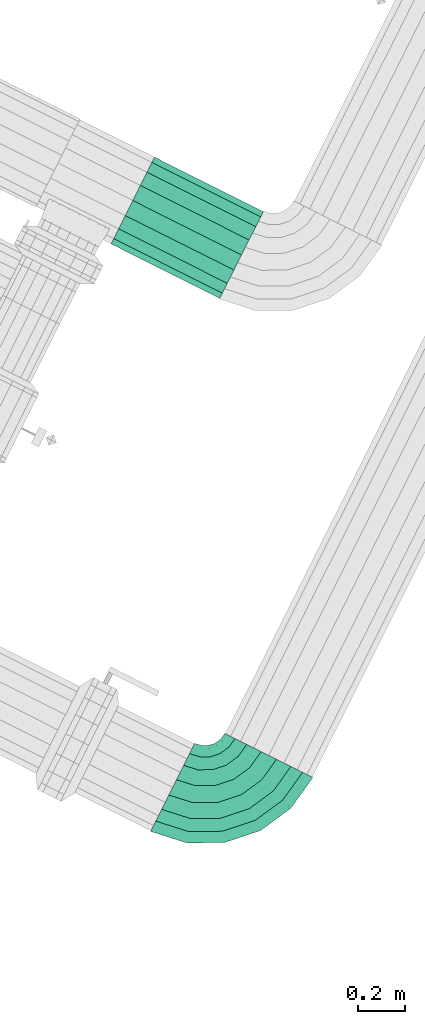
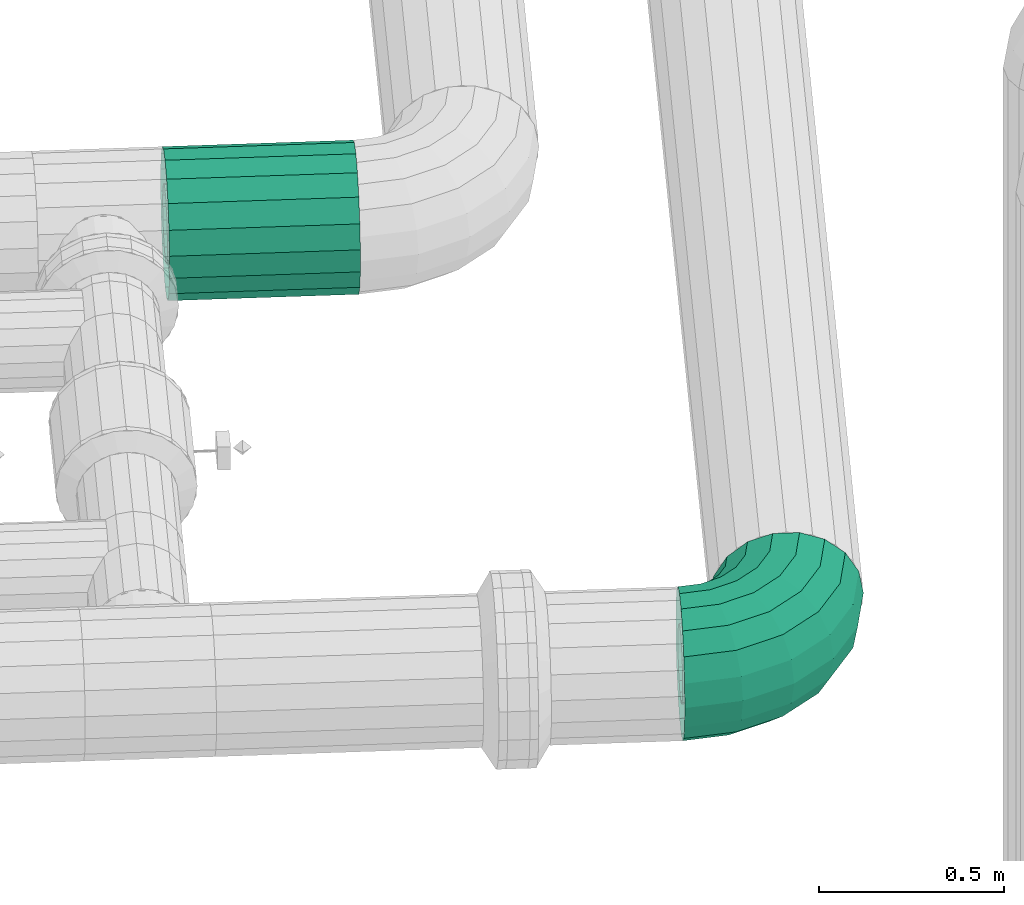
# One storey, part 46 of 152: 2 flow segments.
"""IFC2X3 building model written with IfcOpenShell, lengths in metres."""

import ifcopenshell
import ifcopenshell.guid

model = None  # the IFC model being written
_history = None  # IfcOwnerHistory: only IFC2X3 demands one
_inside = {}  # id of a spatial element -> (the spatial element, [elements in it])
_under = {}  # id of a project, library or spatial element -> (it, [spatial elements below it])
_declared = {}  # id of a project -> (the project, [libraries it declares])
_typed = {}  # id of a type object -> (the type object, [elements of that type])
_made_of = {}  # id of a material, layer set ... -> (it, [elements and type objects made of it])


def new_model(schema):
    """Start an empty IFC model of exactly this schema.

    Asked for "IFC4X3", IfcOpenShell would pick the latest addendum, in which some entities
    have other attributes; the version numbers below select the first issue.
    IFC2X3 requires an IfcOwnerHistory on every rooted entity: one is made here for all.
    """
    global model, _history
    if schema == "IFC4X3":
        model = ifcopenshell.file(schema_version=(4, 3, 0, 0))
    else:
        model = ifcopenshell.file(schema=schema)
    _inside.clear()
    _under.clear()
    _declared.clear()
    _typed.clear()
    _made_of.clear()
    _history = None
    if model.schema == "IFC2X3":
        org = make("IfcOrganization", Name="unknown")
        user = make(
            "IfcPersonAndOrganization",
            ThePerson=make("IfcPerson", FamilyName="unknown"),
            TheOrganization=org,
        )
        app = make(
            "IfcApplication",
            ApplicationDeveloper=org,
            Version="unknown",
            ApplicationFullName="unknown",
            ApplicationIdentifier="unknown",
        )
        _history = make(
            "IfcOwnerHistory",
            OwningUser=user,
            OwningApplication=app,
            ChangeAction="ADDED",
            CreationDate=0,
        )
    return model


def make(cls, **values):
    """One entity of the class cls with the attributes given. An attribute that is None is left unset."""
    return model.create_entity(
        cls, **{name: value for name, value in values.items() if value is not None}
    )


def rooted(cls, **values):
    """An entity with a GlobalId (a new one), such as an element, a storey or a relation."""
    return make(cls, GlobalId=ifcopenshell.guid.new(), OwnerHistory=_history, **values)


def si_unit(unit_type, name, prefix=None):
    """IfcSIUnit, for example si_unit("LENGTHUNIT", "METRE", prefix="MILLI")."""
    return make("IfcSIUnit", UnitType=unit_type, Prefix=prefix, Name=name)


def derived_unit(unit_type, elements):
    """IfcDerivedUnit: a product of units, each with its exponent."""
    return make(
        "IfcDerivedUnit",
        Elements=[
            make("IfcDerivedUnitElement", Unit=unit, Exponent=power)
            for unit, power in elements
        ],
        UnitType=unit_type,
    )


def assignment(units):
    """IfcUnitAssignment: the units of a project."""
    return None if units is None else make("IfcUnitAssignment", Units=units)


def point(xyz):
    """IfcCartesianPoint."""
    return None if xyz is None else make("IfcCartesianPoint", Coordinates=xyz)


def direction(xyz):
    """IfcDirection."""
    return None if xyz is None else make("IfcDirection", DirectionRatios=xyz)


def frame(location, z_axis=None, x_axis=None):
    """IfcAxis2Placement3D, a coordinate frame: its origin and axes. An axis left out is left unset."""
    return make(
        "IfcAxis2Placement3D",
        Location=point(location),
        Axis=direction(z_axis),
        RefDirection=direction(x_axis),
    )


def origin():
    """The frame at (0, 0, 0) with its axes left unset."""
    return frame((0.0, 0.0, 0.0))


def place(relative_to, where):
    """IfcLocalPlacement: puts the frame where relative to a parent placement (None: the world)."""
    return make(
        "IfcLocalPlacement", PlacementRelTo=relative_to, RelativePlacement=where
    )


def context(
    kind, dimensions, precision=None, world=None, true_north=None, identifier=None
):
    """IfcGeometricRepresentationContext, for example the 3D "Model" context."""
    return make(
        "IfcGeometricRepresentationContext",
        ContextIdentifier=identifier,
        ContextType=kind,
        CoordinateSpaceDimension=dimensions,
        Precision=precision,
        WorldCoordinateSystem=world,
        TrueNorth=true_north,
    )


def subcontext(parent, identifier, kind, view, scale=None):
    """IfcGeometricRepresentationSubContext, for example "Body" below "Model"."""
    return make(
        "IfcGeometricRepresentationSubContext",
        ContextIdentifier=identifier,
        ContextType=kind,
        ParentContext=parent,
        TargetScale=scale,
        TargetView=view,
    )


def project(units=None, contexts=None):
    """IfcProject with its units and contexts."""
    return rooted(
        "IfcProject",
        Name="project",
        RepresentationContexts=contexts,
        UnitsInContext=assignment(units),
    )


def spatial(cls, under=None, at=None, **own):
    """A site, building, storey or space (cls), placed at a placement, below another one or the project."""
    s = rooted(cls, ObjectPlacement=at, **own)
    if under is not None:
        _under.setdefault(under.id(), (under, []))[1].append(s)
    return s


def faces_of(points, faces, orient=None, outer=None):
    """IfcFace entities. A face is a list of loops; a loop is a list of indices into points, from 0.

    orient and outer hold one flag for each loop. By default every Orientation is true, the
    first loop of a face is its IfcFaceOuterBound and the others are IfcFaceBound.
    """
    made = []
    for i, loops in enumerate(faces):
        bounds = []
        for j, loop in enumerate(loops):
            is_outer = j == 0 if outer is None else outer[i][j]
            bounds.append(
                make(
                    "IfcFaceOuterBound" if is_outer else "IfcFaceBound",
                    Bound=make("IfcPolyLoop", Polygon=[points[k] for k in loop]),
                    Orientation=True if orient is None else orient[i][j],
                )
            )
        made.append(make("IfcFace", Bounds=bounds))
    return made


def face_set(faces, orient=None, outer=None):
    """The faces of one IfcConnectedFaceSet. surface_model builds it on its shared points."""
    return ("IfcConnectedFaceSet", faces, orient, outer)


def surface_model(cls, points, shells):
    """IfcFaceBasedSurfaceModel or IfcShellBasedSurfaceModel (cls): surfaces that need not close."""
    shared = [point(p) for p in points]
    made = [make(c, CfsFaces=faces_of(shared, fs, o, b)) for c, fs, o, b in shells]
    if cls == "IfcFaceBasedSurfaceModel":
        return make(cls, FbsmFaces=made)
    return make(cls, SbsmBoundary=made)


def shape(context_of_items, identifier, shape_type, items):
    """IfcShapeRepresentation: the items that make up one representation, for example the "Body"."""
    return make(
        "IfcShapeRepresentation",
        ContextOfItems=context_of_items,
        RepresentationIdentifier=identifier,
        RepresentationType=shape_type,
        Items=items,
    )


def source(mapping_origin, context_of_items, identifier, shape_type, items):
    """IfcRepresentationMap: a shape defined once, which mapped items show again and again."""
    return make(
        "IfcRepresentationMap",
        MappingOrigin=mapping_origin,
        MappedRepresentation=shape(context_of_items, identifier, shape_type, items),
    )


def transform(
    local_origin,
    x_axis=None,
    y_axis=None,
    z_axis=None,
    scale=None,
    scale2=None,
    scale3=None,
    uniform=True,
):
    """IfcCartesianTransformationOperator3D, or its non-uniform kind. x_axis, y_axis, z_axis: its Axis1, 2, 3."""
    if uniform:
        return make(
            "IfcCartesianTransformationOperator3D",
            Axis1=direction(x_axis),
            Axis2=direction(y_axis),
            LocalOrigin=point(local_origin),
            Scale=scale,
            Axis3=direction(z_axis),
        )
    return make(
        "IfcCartesianTransformationOperator3DnonUniform",
        Axis1=direction(x_axis),
        Axis2=direction(y_axis),
        LocalOrigin=point(local_origin),
        Scale=scale,
        Axis3=direction(z_axis),
        Scale2=scale2,
        Scale3=scale3,
    )


def mapped(mapping_source, mapping_target):
    """IfcMappedItem: shows the shape of a source again, moved by a transform."""
    return make(
        "IfcMappedItem", MappingSource=mapping_source, MappingTarget=mapping_target
    )


def material(Name=None, Category=None):
    """IfcMaterial."""
    return make("IfcMaterial", Name=Name, Category=Category)


def made_of(thing, what):
    """Note that an element or type object is made of a material, layer set ...; save() writes the relation."""
    if what is not None:
        _made_of.setdefault(what.id(), (what, []))[1].append(thing)
    return thing


def type_object(cls, material=None, **own):
    """A type object (cls), such as IfcWallType, which elements share."""
    return made_of(rooted(cls, **own), material)


def type_shapes(of_type, sources):
    """Give a type object the sources (RepresentationMaps) that its elements show as mapped items."""
    of_type.RepresentationMaps = sources


def element(
    cls,
    number,
    at=None,
    inside=None,
    cuts=None,
    type_object=None,
    material=None,
    context=None,
    identifier="Body",
    shape_type=None,
    held_by="IfcProductDefinitionShape",
    body=None,
    shapes=None,
    **own,
):
    """One element of the class cls, such as IfcWall. Its Tag is "e" and its number.

    at: its placement. inside: the storey or other place that contains it. cuts: it is an
    opening in that element (IfcRelVoidsElement). A single representation is given by context,
    identifier, shape_type and body (its items); several are given by shapes. held_by: the class
    of the entity that holds the representations. save() writes the other relations.
    """
    e = rooted(cls, Tag="e%d" % number, ObjectPlacement=at, **own)
    if body is not None:
        shapes = [shape(context, identifier, shape_type, body)]
    if shapes is not None:
        e.Representation = make(held_by, Representations=shapes)
    if inside is not None:
        _inside.setdefault(inside.id(), (inside, []))[1].append(e)
    if cuts is not None:
        rooted(
            "IfcRelVoidsElement", RelatingBuildingElement=cuts, RelatedOpeningElement=e
        )
    if type_object is not None:
        _typed.setdefault(type_object.id(), (type_object, []))[1].append(e)
    return made_of(e, material)


def aggregate(whole, parts):
    """IfcRelAggregates: a whole, such as a stair, and the parts it consists of."""
    return rooted("IfcRelAggregates", RelatingObject=whole, RelatedObjects=parts)


def save(model, path):
    """Write the relations noted so far, then the file.

    IfcRelAggregates (storeys below a building ...), IfcRelContainedInSpatialStructure (elements
    in a storey), IfcRelDefinesByType, IfcRelAssociatesMaterial and IfcRelDeclares: one each for
    every whole, place, type object, material and project.
    """
    for whole, parts in _under.values():
        aggregate(whole, parts)
    for where, things in _inside.values():
        rooted(
            "IfcRelContainedInSpatialStructure",
            RelatedElements=things,
            RelatingStructure=where,
        )
    for kind, things in _typed.values():
        rooted("IfcRelDefinesByType", RelatedObjects=things, RelatingType=kind)
    for what, things in _made_of.values():
        rooted("IfcRelAssociatesMaterial", RelatedObjects=things, RelatingMaterial=what)
    for by, libraries in _declared.values():
        rooted("IfcRelDeclares", RelatingContext=by, RelatedDefinitions=libraries)
    model.write(path)


model = new_model("IFC2X3")

# Units and contexts
model_context = context("Model", 3, precision=5.2338327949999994e-05, world=origin(), true_north=direction((0.0, 1.0)))
body_context = subcontext(model_context, "Body", "Model", "MODEL_VIEW")
ifc_project = project(units=[si_unit("LENGTHUNIT", "METRE"), si_unit("AREAUNIT", "SQUARE_METRE"), si_unit("VOLUMEUNIT", "CUBIC_METRE"), si_unit("MASSUNIT", "GRAM", prefix="KILO"), si_unit("PLANEANGLEUNIT", "RADIAN"), derived_unit("THERMALTRANSMITTANCEUNIT", [(si_unit("MASSUNIT", "GRAM", prefix="KILO"), 1), (si_unit("THERMODYNAMICTEMPERATUREUNIT", "KELVIN"), -1), (si_unit("TIMEUNIT", "SECOND"), -3)])], contexts=[model_context])

# Site, building, storey
site_placement = place(None, frame((0.0, 0.0, 0.0), z_axis=(0.0, 0.0, 1.0), x_axis=(0.8939966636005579, -0.4480736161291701, 0.0)))
site = spatial("IfcSite", under=ifc_project, at=site_placement, Name="Default", CompositionType="ELEMENT")
building_placement = place(site_placement, origin())
building = spatial("IfcBuilding", under=site, at=building_placement, CompositionType="ELEMENT")
storey_placement = place(building_placement, frame((0.0, 0.0, 2.7499999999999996)))
storey = spatial("IfcBuildingStorey", under=building, at=storey_placement, Name="1. Obergeschoss", CompositionType="ELEMENT", Elevation=2.7499999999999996)

# Flow segments
ifc_material_1 = material(Name="IfcSurfaceStyle #9317")
distribution_element_type_1 = type_object("IfcDistributionElementType", Name="Rohrbogen 226902:Rohrbogen 226902", material=ifc_material_1)
shared_shape_1 = source(origin(), body_context, "Body", "SurfaceModel", [
    surface_model("IfcFaceBasedSurfaceModel", [(16.50504158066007, 5.747237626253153, 5.63564078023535), (16.50504158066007, 5.753844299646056, 5.598172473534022), (16.631103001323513, 5.77381046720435, 5.598172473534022), (16.633144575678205, 5.767527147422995, 5.63564078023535), (16.744824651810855, 5.83175454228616, 5.598172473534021), (16.748707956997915, 5.8264096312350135, 5.635640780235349), (16.83507466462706, 5.922004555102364, 5.598172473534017), (16.840419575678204, 5.918121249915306, 5.635640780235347), (16.893018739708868, 6.035726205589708, 5.598172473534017), (16.899302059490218, 6.033684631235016, 5.6356407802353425), (16.912984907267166, 6.161787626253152, 5.598172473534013), (16.919591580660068, 6.1617876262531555, 5.635640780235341), (16.505041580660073, 5.772867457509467, 5.565223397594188), (16.62522452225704, 5.791902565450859, 5.565223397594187), (16.733643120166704, 5.847144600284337, 5.565223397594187), (16.819684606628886, 5.933186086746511, 5.565223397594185), (16.874926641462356, 6.041604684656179, 5.565223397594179), (16.893961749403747, 6.161787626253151, 5.565223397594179), (16.50504158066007, 5.802012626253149, 5.540767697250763), (16.616218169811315, 5.819621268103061, 5.540767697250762), (16.716512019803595, 5.8707235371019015, 5.54076769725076), (16.79610566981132, 5.950317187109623, 5.540767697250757), (16.847207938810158, 6.050611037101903, 5.540767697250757), (16.864816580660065, 6.16178762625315, 5.540767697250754), (16.50504158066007, 5.837764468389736, 5.527755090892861), (16.6051702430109, 5.853623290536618, 5.527755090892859), (16.69549761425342, 5.899647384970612, 5.52775509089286), (16.7671818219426, 5.9713315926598, 5.527755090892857), (16.813205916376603, 6.061658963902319, 5.527755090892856), (16.829064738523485, 6.16178762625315, 5.527755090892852), (16.505041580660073, 5.8758107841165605, 5.527755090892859), (16.59341328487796, 5.889807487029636, 5.527755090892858), (16.673134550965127, 5.930427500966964, 5.527755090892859), (16.736401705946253, 5.9936946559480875, 5.527755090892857), (16.77702171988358, 6.07341592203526, 5.527755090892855), (16.791018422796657, 6.161787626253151, 5.527755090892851), (16.50504158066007, 5.911562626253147, 5.540767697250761), (16.582365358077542, 5.923809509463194, 5.540767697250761), (16.652120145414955, 5.959351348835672, 5.540767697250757), (16.707477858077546, 6.01470906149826, 5.5407676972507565), (16.743019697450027, 6.084463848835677, 5.540767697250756), (16.75526658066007, 6.161787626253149, 5.540767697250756), (16.50504158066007, 5.940707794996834, 5.565223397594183), (16.57335900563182, 5.951528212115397, 5.56522339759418), (16.634989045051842, 5.982930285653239, 5.565223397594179), (16.683898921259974, 6.031840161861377, 5.565223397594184), (16.715300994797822, 6.0934702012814, 5.565223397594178), (16.726121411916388, 6.161787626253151, 5.565223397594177), (16.50504158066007, 5.959730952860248, 5.598172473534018), (16.567480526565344, 5.969620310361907, 5.5981724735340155), (16.623807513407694, 5.99832034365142, 5.598172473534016), (16.6685088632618, 6.0430216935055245, 5.598172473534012), (16.697208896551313, 6.099348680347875, 5.598172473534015), (16.707098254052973, 6.161787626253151, 5.598172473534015), (16.50504158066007, 5.96633762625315, 5.635640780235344), (16.56543895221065, 5.975903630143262, 5.6356407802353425), (16.61992420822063, 6.0036652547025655, 5.635640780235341), (16.663163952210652, 6.046904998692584, 5.635640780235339), (16.690925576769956, 6.101390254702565, 5.635640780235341), (16.700491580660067, 6.161787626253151, 5.635640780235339), (16.50504158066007, 5.959730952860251, 5.673109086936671), (16.567480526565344, 5.96962031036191, 5.673109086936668), (16.623807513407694, 5.998320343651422, 5.673109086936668), (16.6685088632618, 6.043021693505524, 5.673109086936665), (16.69720889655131, 6.099348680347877, 5.673109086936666), (16.707098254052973, 6.161787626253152, 5.673109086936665), (16.50504158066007, 5.940707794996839, 5.706058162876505), (16.57335900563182, 5.9515282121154, 5.706058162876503), (16.634989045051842, 5.982930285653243, 5.7060581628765), (16.683898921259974, 6.03184016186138, 5.706058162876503), (16.71530099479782, 6.093470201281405, 5.706058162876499), (16.726121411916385, 6.161787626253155, 5.706058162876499), (16.50504158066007, 5.911562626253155, 5.73051386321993), (16.582365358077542, 5.923809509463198, 5.73051386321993), (16.65212014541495, 5.959351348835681, 5.730513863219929), (16.707477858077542, 6.014709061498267, 5.7305138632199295), (16.743019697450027, 6.084463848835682, 5.730513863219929), (16.75526658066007, 6.161787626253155, 5.730513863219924), (16.50504158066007, 5.875810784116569, 5.7435264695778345), (16.593413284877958, 5.889807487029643, 5.743526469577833), (16.673134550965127, 5.930427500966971, 5.743526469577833), (16.73640170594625, 5.993694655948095, 5.74352646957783), (16.77702171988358, 6.0734159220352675, 5.743526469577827), (16.79101842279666, 6.161787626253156, 5.7435264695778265), (16.505041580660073, 5.837764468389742, 5.743526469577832), (16.605170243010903, 5.853623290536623, 5.743526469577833), (16.69549761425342, 5.899647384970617, 5.743526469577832), (16.767181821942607, 5.971331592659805, 5.743526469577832), (16.813205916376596, 6.061658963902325, 5.74352646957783), (16.82906473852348, 6.161787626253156, 5.7435264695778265), (16.50504158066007, 5.802012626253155, 5.730513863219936), (16.616218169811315, 5.8196212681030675, 5.730513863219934), (16.716512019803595, 5.8707235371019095, 5.730513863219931), (16.79610566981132, 5.950317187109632, 5.730513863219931), (16.847207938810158, 6.050611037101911, 5.730513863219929), (16.864816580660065, 6.161787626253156, 5.730513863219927), (16.50504158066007, 5.772867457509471, 5.706058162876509), (16.62522452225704, 5.791902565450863, 5.706058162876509), (16.73364312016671, 5.847144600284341, 5.7060581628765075), (16.819684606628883, 5.933186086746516, 5.706058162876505), (16.874926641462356, 6.041604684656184, 5.706058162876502), (16.89396174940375, 6.1617876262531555, 5.706058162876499), (16.50504158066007, 5.753844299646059, 5.673109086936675), (16.631103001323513, 5.7738104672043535, 5.673109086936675), (16.744824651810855, 5.831754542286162, 5.673109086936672), (16.835074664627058, 5.922004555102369, 5.6731090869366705), (16.893018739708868, 6.035726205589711, 5.6731090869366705), (16.912984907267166, 6.1617876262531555, 5.673109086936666), (16.50504158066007, 5.64723762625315, 5.635640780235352), (16.505041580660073, 5.659875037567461, 5.563970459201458), (16.660141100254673, 5.684440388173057, 5.563970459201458), (16.664046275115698, 5.67242149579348, 5.6356407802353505), (16.800058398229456, 5.755731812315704, 5.563970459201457), (16.807486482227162, 5.745507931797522, 5.63564078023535), (16.911097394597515, 5.866770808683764, 5.563970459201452), (16.9213212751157, 5.859342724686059, 5.635640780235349), (16.98238881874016, 6.006688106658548, 5.56397045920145), (16.994407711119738, 6.002782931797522, 5.635640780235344), (17.006954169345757, 6.16178762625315, 5.563970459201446), (17.019591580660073, 6.161787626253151, 5.63564078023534), (16.50504158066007, 5.696263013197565, 5.500944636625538), (16.648896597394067, 5.719047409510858, 5.500944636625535), (16.7786700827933, 5.785170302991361, 5.500944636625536), (16.88165890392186, 5.888159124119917, 5.500944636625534), (16.94778179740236, 6.017932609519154, 5.50094463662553), (16.97056619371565, 6.161787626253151, 5.500944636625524), (16.505041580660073, 5.752012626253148, 5.45416515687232), (16.631669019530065, 5.772068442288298, 5.454165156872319), (16.745901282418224, 5.830272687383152, 5.454165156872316), (16.836556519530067, 5.920927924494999, 5.454165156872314), (16.894760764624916, 6.0351601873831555, 5.454165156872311), (16.91481658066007, 6.161787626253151, 5.454165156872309), (16.505041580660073, 5.82039965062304, 5.429274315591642), (16.610536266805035, 5.837108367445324, 5.4292743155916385), (16.70570439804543, 5.88559895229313, 5.429274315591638), (16.781230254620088, 5.961124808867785, 5.429274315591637), (16.829720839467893, 6.056292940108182, 5.429274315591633), (16.846429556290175, 6.161787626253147, 5.4292743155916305), (16.505041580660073, 5.89317560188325, 5.429274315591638), (16.58804726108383, 5.906322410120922, 5.429274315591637), (16.66292776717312, 5.944475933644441, 5.429274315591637), (16.722353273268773, 6.003901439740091, 5.429274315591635), (16.760506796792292, 6.0787819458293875, 5.429274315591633), (16.773653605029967, 6.161787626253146, 5.429274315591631), (16.505041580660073, 5.961562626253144, 5.454165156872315), (16.5669145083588, 5.971362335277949, 5.454165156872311), (16.62273088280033, 5.99980219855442, 5.454165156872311), (16.667027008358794, 6.044098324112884, 5.45416515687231), (16.695466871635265, 6.099914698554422, 5.45416515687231), (16.705266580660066, 6.1617876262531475, 5.454165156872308), (16.50504158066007, 6.017312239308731, 5.500944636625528), (16.54968693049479, 6.024383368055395, 5.500944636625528), (16.589962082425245, 6.044904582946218, 5.500944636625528), (16.621924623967, 6.076867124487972, 5.500944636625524), (16.64244583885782, 6.117142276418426, 5.500944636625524), (16.649516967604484, 6.161787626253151, 5.500944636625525), (16.505041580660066, 6.053700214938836, 5.563970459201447), (16.538442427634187, 6.0589903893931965, 5.563970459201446), (16.568573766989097, 6.0743430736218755, 5.563970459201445), (16.59248613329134, 6.098255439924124, 5.563970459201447), (16.60783881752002, 6.12838677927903, 5.563970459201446), (16.61312899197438, 6.16178762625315, 5.563970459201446), (16.50504158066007, 6.066337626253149, 5.635640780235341), (16.53453725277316, 6.071009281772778, 5.635640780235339), (16.561145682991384, 6.084566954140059, 5.635640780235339), (16.58226225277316, 6.105683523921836, 5.635640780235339), (16.59581992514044, 6.132291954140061, 5.635640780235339), (16.600491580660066, 6.161787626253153, 5.635640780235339), (16.50504158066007, 6.053700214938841, 5.7073111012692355), (16.538442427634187, 6.058990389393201, 5.7073111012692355), (16.568573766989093, 6.074343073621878, 5.7073111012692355), (16.59248613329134, 6.098255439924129, 5.707311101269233), (16.60783881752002, 6.128386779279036, 5.707311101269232), (16.61312899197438, 6.1617876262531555, 5.707311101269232), (16.50504158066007, 6.017312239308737, 5.770336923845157), (16.54968693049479, 6.024383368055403, 5.770336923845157), (16.589962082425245, 6.044904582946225, 5.770336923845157), (16.621924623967, 6.076867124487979, 5.770336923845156), (16.64244583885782, 6.117142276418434, 5.770336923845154), (16.649516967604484, 6.161787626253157, 5.7703369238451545), (16.505041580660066, 5.961562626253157, 5.817116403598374), (16.566914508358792, 5.971362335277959, 5.817116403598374), (16.62273088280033, 5.9998021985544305, 5.817116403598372), (16.667027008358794, 6.044098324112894, 5.817116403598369), (16.695466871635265, 6.099914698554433, 5.817116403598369), (16.705266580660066, 6.161787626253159, 5.8171164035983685), (16.505041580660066, 5.893175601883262, 5.8420072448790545), (16.588047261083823, 5.906322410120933, 5.8420072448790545), (16.66292776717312, 5.944475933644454, 5.842007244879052), (16.722353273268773, 6.003901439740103, 5.842007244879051), (16.760506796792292, 6.078781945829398, 5.84200724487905), (16.773653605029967, 6.161787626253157, 5.8420072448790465), (16.505041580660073, 5.820399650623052, 5.842007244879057), (16.61053626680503, 5.837108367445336, 5.842007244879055), (16.705704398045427, 5.885598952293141, 5.842007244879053), (16.781230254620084, 5.9611248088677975, 5.842007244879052), (16.829720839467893, 6.056292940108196, 5.842007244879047), (16.846429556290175, 6.161787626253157, 5.8420072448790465), (16.505041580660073, 5.7520126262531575, 5.817116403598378), (16.631669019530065, 5.772068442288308, 5.817116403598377), (16.74590128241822, 5.830272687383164, 5.817116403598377), (16.836556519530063, 5.92092792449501, 5.817116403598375), (16.894760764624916, 6.035160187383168, 5.817116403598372), (16.914816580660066, 6.161787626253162, 5.817116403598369), (16.50504158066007, 5.696263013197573, 5.770336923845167), (16.648896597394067, 5.719047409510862, 5.770336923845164), (16.7786700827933, 5.785170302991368, 5.770336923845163), (16.881658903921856, 5.888159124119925, 5.770336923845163), (16.94778179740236, 6.0179326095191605, 5.770336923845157), (16.970566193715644, 6.16178762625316, 5.770336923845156), (16.505041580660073, 5.659875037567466, 5.707311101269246), (16.660141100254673, 5.684440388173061, 5.707311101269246), (16.800058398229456, 5.75573181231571, 5.707311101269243), (16.911097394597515, 5.866770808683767, 5.707311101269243), (16.98238881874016, 6.0066881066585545, 5.70731110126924), (17.006954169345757, 6.161787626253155, 5.707311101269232)], [face_set([[[0, 1, 2, 3]], [[3, 2, 4, 5]], [[5, 4, 6, 7]], [[7, 6, 8, 9]], [[9, 8, 10, 11]], [[1, 12, 13, 2]], [[2, 13, 14, 4]], [[4, 14, 15, 6]], [[6, 15, 16, 8]], [[8, 16, 17, 10]], [[12, 18, 19, 13]], [[13, 19, 20, 14]], [[14, 20, 21, 15]], [[15, 21, 22, 16]], [[16, 22, 23, 17]], [[18, 24, 25, 19]], [[19, 25, 26, 20]], [[20, 26, 27, 21]], [[21, 27, 28, 22]], [[22, 28, 29, 23]], [[24, 30, 31, 25]], [[25, 31, 32, 26]], [[26, 32, 33, 27]], [[27, 33, 34, 28]], [[28, 34, 35, 29]], [[30, 36, 37, 31]], [[31, 37, 38, 32]], [[32, 38, 39, 33]], [[33, 39, 40, 34]], [[34, 40, 41, 35]], [[36, 42, 43, 37]], [[37, 43, 44, 38]], [[38, 44, 45, 39]], [[39, 45, 46, 40]], [[40, 46, 47, 41]], [[42, 48, 49, 43]], [[43, 49, 50, 44]], [[44, 50, 51, 45]], [[45, 51, 52, 46]], [[46, 52, 53, 47]], [[48, 54, 55, 49]], [[49, 55, 56, 50]], [[50, 56, 57, 51]], [[51, 57, 58, 52]], [[52, 58, 59, 53]], [[54, 60, 61, 55]], [[55, 61, 62, 56]], [[56, 62, 63, 57]], [[57, 63, 64, 58]], [[58, 64, 65, 59]], [[60, 66, 67, 61]], [[61, 67, 68, 62]], [[62, 68, 69, 63]], [[63, 69, 70, 64]], [[64, 70, 71, 65]], [[66, 72, 73, 67]], [[67, 73, 74, 68]], [[68, 74, 75, 69]], [[69, 75, 76, 70]], [[70, 76, 77, 71]], [[72, 78, 79, 73]], [[73, 79, 80, 74]], [[74, 80, 81, 75]], [[75, 81, 82, 76]], [[76, 82, 83, 77]], [[78, 84, 85, 79]], [[79, 85, 86, 80]], [[80, 86, 87, 81]], [[81, 87, 88, 82]], [[82, 88, 89, 83]], [[84, 90, 91, 85]], [[85, 91, 92, 86]], [[86, 92, 93, 87]], [[87, 93, 94, 88]], [[88, 94, 95, 89]], [[90, 96, 97, 91]], [[91, 97, 98, 92]], [[92, 98, 99, 93]], [[93, 99, 100, 94]], [[94, 100, 101, 95]], [[96, 102, 103, 97]], [[97, 103, 104, 98]], [[98, 104, 105, 99]], [[99, 105, 106, 100]], [[100, 106, 107, 101]], [[102, 0, 3, 103]], [[103, 3, 5, 104]], [[104, 5, 7, 105]], [[105, 7, 9, 106]], [[106, 9, 11, 107]], [[108, 109, 110, 111]], [[111, 110, 112, 113]], [[113, 112, 114, 115]], [[115, 114, 116, 117]], [[117, 116, 118, 119]], [[109, 120, 121, 110]], [[110, 121, 122, 112]], [[112, 122, 123, 114]], [[114, 123, 124, 116]], [[116, 124, 125, 118]], [[120, 126, 127, 121]], [[121, 127, 128, 122]], [[122, 128, 129, 123]], [[123, 129, 130, 124]], [[124, 130, 131, 125]], [[126, 132, 133, 127]], [[127, 133, 134, 128]], [[128, 134, 135, 129]], [[129, 135, 136, 130]], [[130, 136, 137, 131]], [[132, 138, 139, 133]], [[133, 139, 140, 134]], [[134, 140, 141, 135]], [[135, 141, 142, 136]], [[136, 142, 143, 137]], [[138, 144, 145, 139]], [[139, 145, 146, 140]], [[140, 146, 147, 141]], [[141, 147, 148, 142]], [[142, 148, 149, 143]], [[144, 150, 151, 145]], [[145, 151, 152, 146]], [[146, 152, 153, 147]], [[147, 153, 154, 148]], [[148, 154, 155, 149]], [[150, 156, 157, 151]], [[151, 157, 158, 152]], [[152, 158, 159, 153]], [[153, 159, 160, 154]], [[154, 160, 161, 155]], [[156, 162, 163, 157]], [[157, 163, 164, 158]], [[158, 164, 165, 159]], [[159, 165, 166, 160]], [[160, 166, 167, 161]], [[162, 168, 169, 163]], [[163, 169, 170, 164]], [[164, 170, 171, 165]], [[165, 171, 172, 166]], [[166, 172, 173, 167]], [[168, 174, 175, 169]], [[169, 175, 176, 170]], [[170, 176, 177, 171]], [[171, 177, 178, 172]], [[172, 178, 179, 173]], [[174, 180, 181, 175]], [[175, 181, 182, 176]], [[176, 182, 183, 177]], [[177, 183, 184, 178]], [[178, 184, 185, 179]], [[180, 186, 187, 181]], [[181, 187, 188, 182]], [[182, 188, 189, 183]], [[183, 189, 190, 184]], [[184, 190, 191, 185]], [[186, 192, 193, 187]], [[187, 193, 194, 188]], [[188, 194, 195, 189]], [[189, 195, 196, 190]], [[190, 196, 197, 191]], [[192, 198, 199, 193]], [[193, 199, 200, 194]], [[194, 200, 201, 195]], [[195, 201, 202, 196]], [[196, 202, 203, 197]], [[198, 204, 205, 199]], [[199, 205, 206, 200]], [[200, 206, 207, 201]], [[201, 207, 208, 202]], [[202, 208, 209, 203]], [[204, 210, 211, 205]], [[205, 211, 212, 206]], [[206, 212, 213, 207]], [[207, 213, 214, 208]], [[208, 214, 215, 209]], [[210, 108, 111, 211]], [[211, 111, 113, 212]], [[212, 113, 115, 213]], [[213, 115, 117, 214]], [[214, 117, 119, 215]]])]),
])
type_shapes(distribution_element_type_1, [shared_shape_1])
flow_segment_1_placement = place(storey_placement, frame((0.0, 0.0, -2.7499999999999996)))
element("IfcFlowSegment", 1, at=flow_segment_1_placement, inside=storey, type_object=distribution_element_type_1, material=ifc_material_1, Name="Rohrbogen", ObjectType="Rohrbogen", context=body_context, shape_type="MappedRepresentation", body=[
    mapped(shared_shape_1, transform((0.0, 0.0, 0.0), scale=1.0)),
])
ifc_material_2 = material(Name="IfcSurfaceStyle #1741")
distribution_element_type_2 = type_object("IfcDistributionElementType", Name="Stahlrohr nach DIN 2448 267749:Stahlrohr nach DIN 2448 267749", material=ifc_material_2)
shared_shape_2 = source(origin(), body_context, "Body", "SurfaceModel", [
    surface_model("IfcFaceBasedSurfaceModel", [(15.23524256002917, 8.012208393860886, 5.526090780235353), (15.23524256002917, 8.049676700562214, 5.5326974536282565), (15.752724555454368, 8.04967670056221, 5.5326974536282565), (15.752724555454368, 8.012208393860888, 5.526090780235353), (15.23524256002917, 8.082625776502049, 5.551720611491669), (15.752724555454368, 8.082625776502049, 5.551720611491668), (15.23524256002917, 8.107081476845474, 5.580865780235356), (15.752724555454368, 8.107081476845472, 5.580865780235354), (15.23524256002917, 8.120094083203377, 5.61661762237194), (15.752724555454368, 8.120094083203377, 5.616617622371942), (15.23524256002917, 8.120094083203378, 5.654663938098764), (15.752724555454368, 8.120094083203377, 5.654663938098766), (15.23524256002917, 8.107081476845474, 5.690415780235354), (15.752724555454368, 8.107081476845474, 5.690415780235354), (15.23524256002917, 8.082625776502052, 5.71956094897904), (15.752724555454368, 8.082625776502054, 5.719560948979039), (15.23524256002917, 8.049676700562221, 5.73858410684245), (15.752724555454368, 8.049676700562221, 5.73858410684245), (15.23524256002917, 8.012208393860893, 5.745190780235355), (15.752724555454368, 8.012208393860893, 5.745190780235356), (15.23524256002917, 7.974740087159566, 5.73858410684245), (15.752724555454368, 7.974740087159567, 5.738584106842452), (15.23524256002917, 7.941791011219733, 5.719560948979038), (15.752724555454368, 7.941791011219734, 5.719560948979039), (15.23524256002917, 7.917335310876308, 5.690415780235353), (15.752724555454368, 7.917335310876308, 5.690415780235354), (15.23524256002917, 7.904322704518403, 5.654663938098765), (15.752724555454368, 7.904322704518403, 5.654663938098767), (15.23524256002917, 7.904322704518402, 5.616617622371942), (15.752724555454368, 7.9043227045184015, 5.616617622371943), (15.23524256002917, 7.917335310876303, 5.580865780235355), (15.752724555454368, 7.917335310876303, 5.580865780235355), (15.23524256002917, 7.9417910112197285, 5.551720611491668), (15.752724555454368, 7.941791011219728, 5.551720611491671), (15.23524256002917, 7.974740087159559, 5.5326974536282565), (15.752724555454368, 7.974740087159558, 5.532697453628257), (15.23524256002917, 8.012208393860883, 5.426090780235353), (15.23524256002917, 8.083878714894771, 5.438728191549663), (15.752724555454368, 8.083878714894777, 5.438728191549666), (15.752724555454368, 8.012208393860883, 5.426090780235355), (15.23524256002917, 8.146904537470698, 5.47511616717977), (15.752724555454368, 8.146904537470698, 5.47511616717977), (15.23524256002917, 8.193684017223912, 5.530865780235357), (15.752724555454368, 8.193684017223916, 5.530865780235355), (15.23524256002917, 8.218574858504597, 5.599252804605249), (15.752724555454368, 8.218574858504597, 5.599252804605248), (15.23524256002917, 8.218574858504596, 5.672028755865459), (15.752724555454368, 8.218574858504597, 5.672028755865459), (15.23524256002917, 8.193684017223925, 5.740415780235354), (15.752724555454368, 8.193684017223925, 5.740415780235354), (15.23524256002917, 8.14690453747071, 5.796165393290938), (15.752724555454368, 8.14690453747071, 5.796165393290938), (15.23524256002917, 8.083878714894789, 5.83255336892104), (15.752724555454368, 8.083878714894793, 5.832553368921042), (15.23524256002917, 8.012208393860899, 5.845190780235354), (15.752724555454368, 8.012208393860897, 5.845190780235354), (15.23524256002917, 7.940538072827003, 5.832553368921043), (15.752724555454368, 7.940538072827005, 5.832553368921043), (15.23524256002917, 7.8775122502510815, 5.796165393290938), (15.752724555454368, 7.8775122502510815, 5.796165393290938), (15.23524256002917, 7.830732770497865, 5.740415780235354), (15.752724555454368, 7.830732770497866, 5.740415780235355), (15.23524256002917, 7.805841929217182, 5.672028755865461), (15.752724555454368, 7.805841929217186, 5.672028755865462), (15.23524256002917, 7.805841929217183, 5.59925280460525), (15.752724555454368, 7.805841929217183, 5.59925280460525), (15.23524256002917, 7.830732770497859, 5.530865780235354), (15.752724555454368, 7.830732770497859, 5.530865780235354), (15.23524256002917, 7.877512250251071, 5.47511616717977), (15.752724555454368, 7.87751225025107, 5.475116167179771), (15.23524256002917, 7.940538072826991, 5.438728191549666), (15.752724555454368, 7.940538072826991, 5.438728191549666)], [face_set([[[0, 1, 2, 3]], [[1, 4, 5, 2]], [[4, 6, 7, 5]], [[6, 8, 9, 7]], [[8, 10, 11, 9]], [[10, 12, 13, 11]], [[12, 14, 15, 13]], [[14, 16, 17, 15]], [[16, 18, 19, 17]], [[18, 20, 21, 19]], [[20, 22, 23, 21]], [[22, 24, 25, 23]], [[24, 26, 27, 25]], [[26, 28, 29, 27]], [[28, 30, 31, 29]], [[30, 32, 33, 31]], [[32, 34, 35, 33]], [[34, 0, 3, 35]], [[36, 37, 38, 39]], [[37, 40, 41, 38]], [[40, 42, 43, 41]], [[42, 44, 45, 43]], [[44, 46, 47, 45]], [[46, 48, 49, 47]], [[48, 50, 51, 49]], [[50, 52, 53, 51]], [[52, 54, 55, 53]], [[54, 56, 57, 55]], [[56, 58, 59, 57]], [[58, 60, 61, 59]], [[60, 62, 63, 61]], [[62, 64, 65, 63]], [[64, 66, 67, 65]], [[66, 68, 69, 67]], [[68, 70, 71, 69]], [[70, 36, 39, 71]]])]),
])
type_shapes(distribution_element_type_2, [shared_shape_2])
flow_segment_2_placement = place(storey_placement, frame((0.0, 0.0, -2.7499999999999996)))
element("IfcFlowSegment", 2, at=flow_segment_2_placement, inside=storey, type_object=distribution_element_type_2, material=ifc_material_2, Name="Stahlrohr nach DIN 2448", ObjectType="Stahlrohr nach DIN 2448", context=body_context, shape_type="MappedRepresentation", body=[
    mapped(shared_shape_2, transform((0.0, 0.0, 0.0), scale=1.0)),
])

save(model, "model.ifc")
